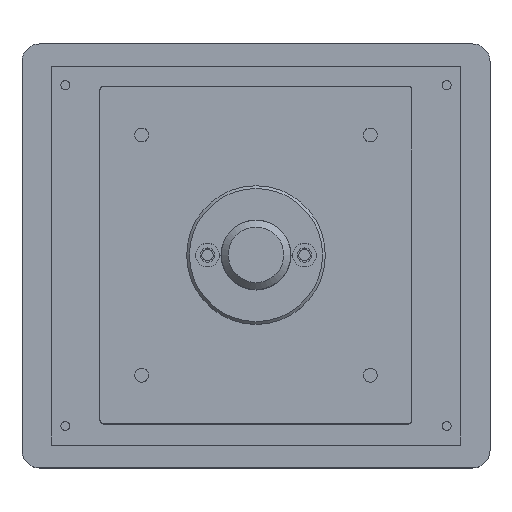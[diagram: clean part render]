
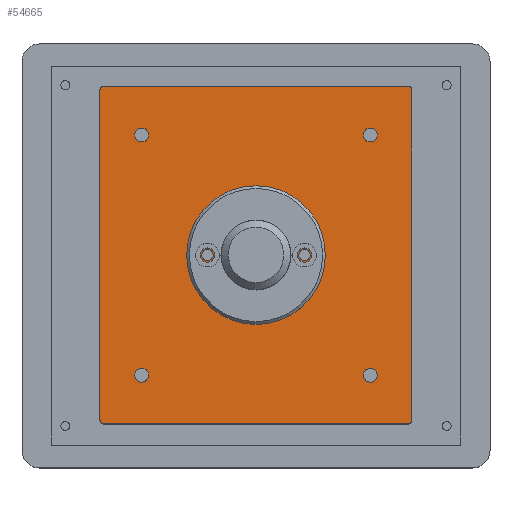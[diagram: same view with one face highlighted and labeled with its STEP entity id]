
A CAD part, top view. The second image highlights one B-rep face of the part: STEP entity #54665.
In plain terms, the highlighted planar face has unit normal (0, 0, 1).
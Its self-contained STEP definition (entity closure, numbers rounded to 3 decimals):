
#7707=LINE('',#118359,#12278);
#7713=LINE('',#118373,#12284);
#7715=LINE('',#118377,#12286);
#7721=LINE('',#118391,#12292);
#12278=VECTOR('',#96086,1000.);
#12284=VECTOR('',#96094,1000.);
#12286=VECTOR('',#96098,1000.);
#12292=VECTOR('',#96106,1000.);
#28034=ORIENTED_EDGE('',*,*,#36036,.T.);
#28035=ORIENTED_EDGE('',*,*,#36037,.F.);
#28036=ORIENTED_EDGE('',*,*,#36038,.F.);
#28037=ORIENTED_EDGE('',*,*,#36039,.F.);
#28038=ORIENTED_EDGE('',*,*,#36040,.F.);
#28039=ORIENTED_EDGE('',*,*,#36041,.F.);
#28040=ORIENTED_EDGE('',*,*,#36042,.F.);
#28041=ORIENTED_EDGE('',*,*,#36034,.T.);
#28042=ORIENTED_EDGE('',*,*,#36043,.T.);
#28043=ORIENTED_EDGE('',*,*,#36020,.T.);
#28044=ORIENTED_EDGE('',*,*,#36044,.T.);
#28045=ORIENTED_EDGE('',*,*,#36026,.T.);
#28046=ORIENTED_EDGE('',*,*,#36045,.T.);
#28047=ORIENTED_EDGE('',*,*,#36028,.T.);
#28048=ORIENTED_EDGE('',*,*,#36046,.T.);
#36020=EDGE_CURVE('',#41257,#41258,#7707,.T.);
#36026=EDGE_CURVE('',#41264,#41263,#7713,.T.);
#36028=EDGE_CURVE('',#41265,#41266,#7715,.T.);
#36034=EDGE_CURVE('',#41272,#41271,#7721,.T.);
#36036=EDGE_CURVE('',#41273,#41273,#43387,.T.);
#36037=EDGE_CURVE('',#41274,#41274,#43388,.T.);
#36038=EDGE_CURVE('',#41275,#41275,#43389,.T.);
#36039=EDGE_CURVE('',#41276,#41276,#43390,.T.);
#36040=EDGE_CURVE('',#41277,#41277,#43391,.T.);
#36041=EDGE_CURVE('',#41278,#41278,#43392,.T.);
#36042=EDGE_CURVE('',#41279,#41279,#43393,.T.);
#36043=EDGE_CURVE('',#41271,#41257,#43394,.T.);
#36044=EDGE_CURVE('',#41258,#41264,#43395,.T.);
#36045=EDGE_CURVE('',#41263,#41265,#43396,.T.);
#36046=EDGE_CURVE('',#41266,#41272,#43397,.T.);
#41257=VERTEX_POINT('',#118360);
#41258=VERTEX_POINT('',#118361);
#41263=VERTEX_POINT('',#118372);
#41264=VERTEX_POINT('',#118374);
#41265=VERTEX_POINT('',#118378);
#41266=VERTEX_POINT('',#118379);
#41271=VERTEX_POINT('',#118390);
#41272=VERTEX_POINT('',#118392);
#41273=VERTEX_POINT('',#118396);
#41274=VERTEX_POINT('',#118398);
#41275=VERTEX_POINT('',#118400);
#41276=VERTEX_POINT('',#118402);
#41277=VERTEX_POINT('',#118404);
#41278=VERTEX_POINT('',#118406);
#41279=VERTEX_POINT('',#118408);
#43387=CIRCLE('',#80568,5.5);
#43388=CIRCLE('',#80569,1.621);
#43389=CIRCLE('',#80570,1.621);
#43390=CIRCLE('',#80571,2.);
#43391=CIRCLE('',#80572,2.);
#43392=CIRCLE('',#80573,2.);
#43393=CIRCLE('',#80574,2.);
#43394=CIRCLE('',#80575,1.);
#43395=CIRCLE('',#80576,1.);
#43396=CIRCLE('',#80577,1.);
#43397=CIRCLE('',#80578,1.);
#46729=EDGE_LOOP('',(#28034));
#46730=EDGE_LOOP('',(#28035));
#46731=EDGE_LOOP('',(#28036));
#46732=EDGE_LOOP('',(#28037));
#46733=EDGE_LOOP('',(#28038));
#46734=EDGE_LOOP('',(#28039));
#46735=EDGE_LOOP('',(#28040));
#46736=EDGE_LOOP('',(#28041,#28042,#28043,#28044,#28045,#28046,#28047,#28048));
#50109=FACE_BOUND('',#46729,.T.);
#50110=FACE_BOUND('',#46730,.T.);
#50111=FACE_BOUND('',#46731,.T.);
#50112=FACE_BOUND('',#46732,.T.);
#50113=FACE_BOUND('',#46733,.T.);
#50114=FACE_BOUND('',#46734,.T.);
#50115=FACE_BOUND('',#46735,.T.);
#50116=FACE_BOUND('',#46736,.T.);
#51669=PLANE('',#80567);
#54665=ADVANCED_FACE('',(#50109,#50110,#50111,#50112,#50113,#50114,#50115,
#50116),#51669,.T.);
#80567=AXIS2_PLACEMENT_3D('',#118394,#96108,#96109);
#80568=AXIS2_PLACEMENT_3D('',#118395,#96110,#96111);
#80569=AXIS2_PLACEMENT_3D('',#118397,#96112,#96113);
#80570=AXIS2_PLACEMENT_3D('',#118399,#96114,#96115);
#80571=AXIS2_PLACEMENT_3D('',#118401,#96116,#96117);
#80572=AXIS2_PLACEMENT_3D('',#118403,#96118,#96119);
#80573=AXIS2_PLACEMENT_3D('',#118405,#96120,#96121);
#80574=AXIS2_PLACEMENT_3D('',#118407,#96122,#96123);
#80575=AXIS2_PLACEMENT_3D('',#118409,#96124,#96125);
#80576=AXIS2_PLACEMENT_3D('',#118410,#96126,#96127);
#80577=AXIS2_PLACEMENT_3D('',#118411,#96128,#96129);
#80578=AXIS2_PLACEMENT_3D('',#118412,#96130,#96131);
#96086=DIRECTION('',(0.,-1.,0.));
#96094=DIRECTION('',(1.,0.,0.));
#96098=DIRECTION('',(0.,1.,0.));
#96106=DIRECTION('',(-1.,0.,0.));
#96108=DIRECTION('',(0.,0.,1.));
#96109=DIRECTION('',(1.,0.,0.));
#96110=DIRECTION('',(0.,0.,-1.));
#96111=DIRECTION('',(-1.,0.,0.));
#96112=DIRECTION('',(0.,0.,1.));
#96113=DIRECTION('',(-1.,0.,0.));
#96114=DIRECTION('',(0.,0.,1.));
#96115=DIRECTION('',(-1.,0.,0.));
#96116=DIRECTION('',(0.,0.,1.));
#96117=DIRECTION('',(1.,0.,0.));
#96118=DIRECTION('',(0.,0.,1.));
#96119=DIRECTION('',(1.,0.,0.));
#96120=DIRECTION('',(0.,0.,1.));
#96121=DIRECTION('',(1.,0.,0.));
#96122=DIRECTION('',(0.,0.,1.));
#96123=DIRECTION('',(1.,0.,0.));
#96124=DIRECTION('',(0.,0.,1.));
#96125=DIRECTION('',(1.,0.,0.));
#96126=DIRECTION('',(0.,0.,1.));
#96127=DIRECTION('',(1.,0.,0.));
#96128=DIRECTION('',(0.,0.,1.));
#96129=DIRECTION('',(1.,0.,0.));
#96130=DIRECTION('',(0.,0.,1.));
#96131=DIRECTION('',(1.,0.,0.));
#118359=CARTESIAN_POINT('',(-45.,48.65,16.));
#118360=CARTESIAN_POINT('',(-45.,47.65,16.));
#118361=CARTESIAN_POINT('',(-45.,-47.65,16.));
#118372=CARTESIAN_POINT('',(44.,-48.65,16.));
#118373=CARTESIAN_POINT('',(-45.,-48.65,16.));
#118374=CARTESIAN_POINT('',(-44.,-48.65,16.));
#118377=CARTESIAN_POINT('',(45.,-48.65,16.));
#118378=CARTESIAN_POINT('',(45.,-47.65,16.));
#118379=CARTESIAN_POINT('',(45.,47.65,16.));
#118390=CARTESIAN_POINT('',(-44.,48.65,16.));
#118391=CARTESIAN_POINT('',(45.,48.65,16.));
#118392=CARTESIAN_POINT('',(44.,48.65,16.));
#118394=CARTESIAN_POINT('',(-45.,-48.65,16.));
#118395=CARTESIAN_POINT('',(0.,0.,16.));
#118396=CARTESIAN_POINT('',(-5.5,0.,16.));
#118397=CARTESIAN_POINT('',(14.,0.,16.));
#118398=CARTESIAN_POINT('',(12.379,0.,16.));
#118399=CARTESIAN_POINT('',(-14.,0.,16.));
#118400=CARTESIAN_POINT('',(-15.621,0.,16.));
#118401=CARTESIAN_POINT('',(-33.,-34.65,16.));
#118402=CARTESIAN_POINT('',(-31.,-34.65,16.));
#118403=CARTESIAN_POINT('',(-33.,34.65,16.));
#118404=CARTESIAN_POINT('',(-31.,34.65,16.));
#118405=CARTESIAN_POINT('',(33.,34.65,16.));
#118406=CARTESIAN_POINT('',(35.,34.65,16.));
#118407=CARTESIAN_POINT('',(33.,-34.65,16.));
#118408=CARTESIAN_POINT('',(35.,-34.65,16.));
#118409=CARTESIAN_POINT('',(-44.,47.65,16.));
#118410=CARTESIAN_POINT('',(-44.,-47.65,16.));
#118411=CARTESIAN_POINT('',(44.,-47.65,16.));
#118412=CARTESIAN_POINT('',(44.,47.65,16.));
